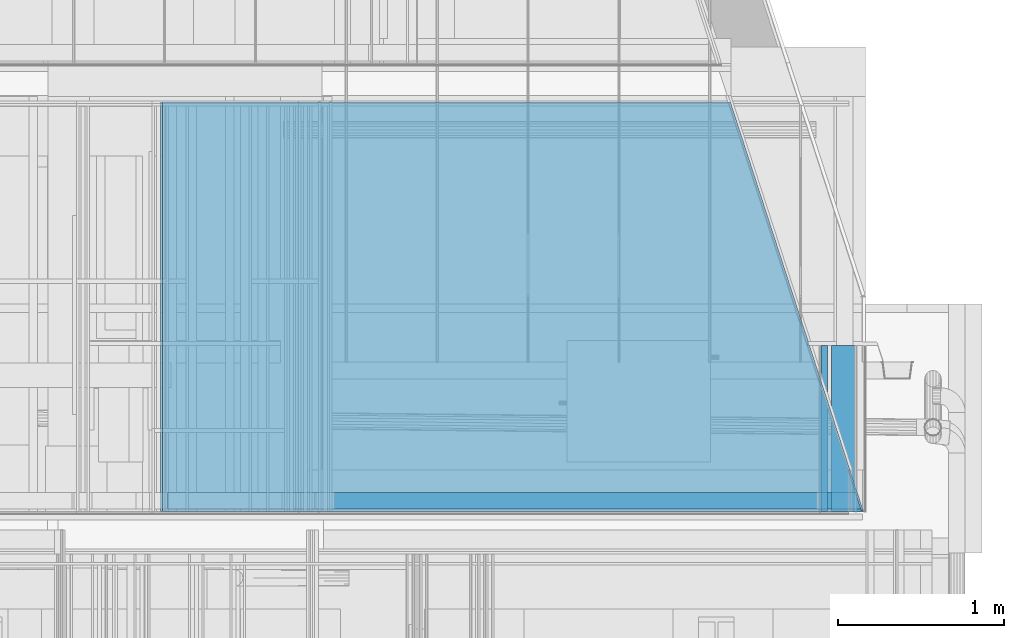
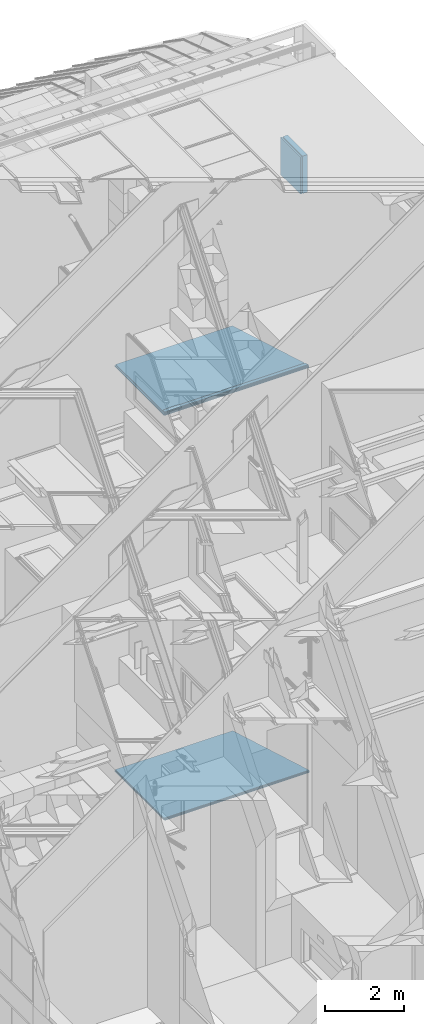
# One storey, part 164 of 583: 10 building element parts, 3 elements without a shape of their own.
"""IFC2X3 building model written with IfcOpenShell, lengths in metres."""

from ifc_helpers import new_model, entity, si_unit, converted_unit, derived_unit, money_unit, direction, frame, frame_2d, origin_with_axes, place, context, subcontext, project, spatial, rectangle, extrude, clip, halfspace, material, type_object, element, aggregate, save


model = new_model("IFC2X3")

# Units and contexts
model_context = context("Model", 3, precision=1e-05, world=origin_with_axes(), true_north=direction((0.0, 1.0)))
body_context = subcontext(model_context, "Body", "Model", "MODEL_VIEW", scale=1.0)
ifc_project = project(units=[si_unit("LENGTHUNIT", "METRE"), si_unit("AREAUNIT", "SQUARE_METRE"), si_unit("VOLUMEUNIT", "CUBIC_METRE"), si_unit("ABSORBEDDOSEUNIT", "GRAY"), si_unit("AMOUNTOFSUBSTANCEUNIT", "MOLE"), si_unit("DOSEEQUIVALENTUNIT", "SIEVERT"), si_unit("ELECTRICCAPACITANCEUNIT", "FARAD"), si_unit("ELECTRICCHARGEUNIT", "COULOMB"), si_unit("ELECTRICCONDUCTANCEUNIT", "SIEMENS"), si_unit("ELECTRICCURRENTUNIT", "AMPERE"), si_unit("ELECTRICRESISTANCEUNIT", "OHM"), si_unit("ELECTRICVOLTAGEUNIT", "VOLT"), si_unit("ENERGYUNIT", "JOULE"), si_unit("FORCEUNIT", "NEWTON"), si_unit("FREQUENCYUNIT", "HERTZ"), si_unit("ILLUMINANCEUNIT", "LUX"), si_unit("INDUCTANCEUNIT", "HENRY"), si_unit("LUMINOUSFLUXUNIT", "LUMEN"), si_unit("LUMINOUSINTENSITYUNIT", "CANDELA"), si_unit("MAGNETICFLUXDENSITYUNIT", "TESLA"), si_unit("MAGNETICFLUXUNIT", "WEBER"), si_unit("MASSUNIT", "GRAM"), converted_unit("PLANEANGLEUNIT", "degree", entity("IfcReal", 0.0174532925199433), si_unit("PLANEANGLEUNIT", "RADIAN"), dimensions=[0, 0, 0, 0, 0, 0, 0]), si_unit("POWERUNIT", "WATT"), si_unit("PRESSUREUNIT", "PASCAL"), si_unit("RADIOACTIVITYUNIT", "BECQUEREL"), si_unit("SOLIDANGLEUNIT", "STERADIAN"), si_unit("THERMODYNAMICTEMPERATUREUNIT", "KELVIN"), si_unit("TIMEUNIT", "SECOND"), derived_unit("ACCELERATIONUNIT", [(si_unit("LENGTHUNIT", "METRE"), 1), (si_unit("TIMEUNIT", "SECOND"), -2)]), derived_unit("ANGULARVELOCITYUNIT", [(converted_unit("PLANEANGLEUNIT", "degree", entity("IfcReal", 0.0174532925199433), si_unit("PLANEANGLEUNIT", "RADIAN"), dimensions=[0, 0, 0, 0, 0, 0, 0]), 1), (si_unit("TIMEUNIT", "SECOND"), -1)]), derived_unit("CURVATUREUNIT", [(converted_unit("PLANEANGLEUNIT", "degree", entity("IfcReal", 0.0174532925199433), si_unit("PLANEANGLEUNIT", "RADIAN"), dimensions=[0, 0, 0, 0, 0, 0, 0]), 1), (si_unit("LENGTHUNIT", "METRE"), -1)]), derived_unit("DYNAMICVISCOSITYUNIT", [(si_unit("PRESSUREUNIT", "PASCAL"), 1), (si_unit("TIMEUNIT", "SECOND"), 1)]), derived_unit("HEATFLUXDENSITYUNIT", [(si_unit("POWERUNIT", "WATT"), 1), (si_unit("LENGTHUNIT", "METRE"), -2)]), derived_unit("HEATINGVALUEUNIT", [(si_unit("ENERGYUNIT", "JOULE"), 1), (si_unit("MASSUNIT", "GRAM"), -1)]), derived_unit("INTEGERCOUNTRATEUNIT", [(si_unit("TIMEUNIT", "SECOND"), -1)]), derived_unit("IONCONCENTRATIONUNIT", [(si_unit("MASSUNIT", "GRAM"), 1), (si_unit("VOLUMEUNIT", "CUBIC_METRE"), -1)]), derived_unit("ISOTHERMALMOISTURECAPACITYUNIT", [(si_unit("VOLUMEUNIT", "CUBIC_METRE"), 1), (si_unit("MASSUNIT", "GRAM"), -1)]), derived_unit("KINEMATICVISCOSITYUNIT", [(si_unit("AREAUNIT", "SQUARE_METRE"), 1), (si_unit("TIMEUNIT", "SECOND"), -1)]), derived_unit("LINEARFORCEUNIT", [(si_unit("FORCEUNIT", "NEWTON"), 1), (si_unit("LENGTHUNIT", "METRE"), -1)]), derived_unit("LINEARMOMENTUNIT", [(si_unit("FORCEUNIT", "NEWTON"), 1), (si_unit("LENGTHUNIT", "METRE"), -1)]), derived_unit("LINEARSTIFFNESSUNIT", [(si_unit("FORCEUNIT", "NEWTON"), 1), (si_unit("LENGTHUNIT", "METRE"), -1)]), derived_unit("LINEARVELOCITYUNIT", [(si_unit("LENGTHUNIT", "METRE"), 1), (si_unit("TIMEUNIT", "SECOND"), -1)]), derived_unit("LUMINOUSINTENSITYDISTRIBUTIONUNIT", [(si_unit("LUMINOUSINTENSITYUNIT", "CANDELA"), 1), (si_unit("LUMINOUSFLUXUNIT", "LUMEN"), -1)]), derived_unit("MASSDENSITYUNIT", [(si_unit("MASSUNIT", "GRAM"), 1), (si_unit("VOLUMEUNIT", "CUBIC_METRE"), -1)]), derived_unit("MASSFLOWRATEUNIT", [(si_unit("MASSUNIT", "GRAM"), 1), (si_unit("TIMEUNIT", "SECOND"), -1)]), derived_unit("MASSPERLENGTHUNIT", [(si_unit("MASSUNIT", "GRAM"), 1), (si_unit("LENGTHUNIT", "METRE"), -1)]), derived_unit("MODULUSOFELASTICITYUNIT", [(si_unit("FORCEUNIT", "NEWTON"), 1), (si_unit("AREAUNIT", "SQUARE_METRE"), -1)]), derived_unit("MODULUSOFLINEARSUBGRADEREACTIONUNIT", [(si_unit("FORCEUNIT", "NEWTON"), 1), (si_unit("LENGTHUNIT", "METRE"), -2)]), derived_unit("MODULUSOFROTATIONALSUBGRADEREACTIONUNIT", [(si_unit("FORCEUNIT", "NEWTON"), 1), (si_unit("LENGTHUNIT", "METRE"), 1)]), derived_unit("MODULUSOFSUBGRADEREACTIONUNIT", [(si_unit("FORCEUNIT", "NEWTON"), 1), (si_unit("VOLUMEUNIT", "CUBIC_METRE"), -1)]), derived_unit("MOISTUREDIFFUSIVITYUNIT", [(si_unit("VOLUMEUNIT", "CUBIC_METRE"), 1), (si_unit("TIMEUNIT", "SECOND"), -1)]), derived_unit("MOLECULARWEIGHTUNIT", [(si_unit("MASSUNIT", "GRAM"), 1), (si_unit("AMOUNTOFSUBSTANCEUNIT", "MOLE"), -1)]), derived_unit("PLANARFORCEUNIT", [(si_unit("FORCEUNIT", "NEWTON"), 1), (si_unit("LENGTHUNIT", "METRE"), -2)]), derived_unit("ROTATIONALFREQUENCYUNIT", [(si_unit("TIMEUNIT", "SECOND"), -1)]), derived_unit("ROTATIONALMASSUNIT", [(si_unit("MASSUNIT", "GRAM"), 1), (si_unit("LENGTHUNIT", "METRE"), 2)]), derived_unit("ROTATIONALSTIFFNESSUNIT", [(si_unit("FORCEUNIT", "NEWTON"), 1), (si_unit("LENGTHUNIT", "METRE"), 1), (converted_unit("PLANEANGLEUNIT", "degree", entity("IfcReal", 0.0174532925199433), si_unit("PLANEANGLEUNIT", "RADIAN"), dimensions=[0, 0, 0, 0, 0, 0, 0]), -1)]), derived_unit("SECTIONAREAINTEGRALUNIT", [(si_unit("LENGTHUNIT", "METRE"), 5)]), derived_unit("SECTIONMODULUSUNIT", [(si_unit("LENGTHUNIT", "METRE"), 3)]), derived_unit("SHEARMODULUSUNIT", [(si_unit("FORCEUNIT", "NEWTON"), 1), (si_unit("AREAUNIT", "SQUARE_METRE"), -1)]), derived_unit("SOUNDPOWERUNIT", [(si_unit("ENERGYUNIT", "JOULE"), 1), (si_unit("TIMEUNIT", "SECOND"), -1)]), derived_unit("SPECIFICHEATCAPACITYUNIT", [(si_unit("FORCEUNIT", "NEWTON"), 1), (si_unit("MASSUNIT", "GRAM"), -1), (si_unit("THERMODYNAMICTEMPERATUREUNIT", "KELVIN"), -1)]), derived_unit("TEMPERATUREGRADIENTUNIT", [(si_unit("THERMODYNAMICTEMPERATUREUNIT", "KELVIN"), 1), (si_unit("LENGTHUNIT", "METRE"), -1)]), derived_unit("THERMALADMITTANCEUNIT", [(si_unit("POWERUNIT", "WATT"), 1), (si_unit("AREAUNIT", "SQUARE_METRE"), -1), (si_unit("THERMODYNAMICTEMPERATUREUNIT", "KELVIN"), -1)]), derived_unit("THERMALCONDUCTANCEUNIT", [(si_unit("POWERUNIT", "WATT"), 1), (si_unit("LENGTHUNIT", "METRE"), -1), (si_unit("THERMODYNAMICTEMPERATUREUNIT", "KELVIN"), -1)]), derived_unit("THERMALEXPANSIONCOEFFICIENTUNIT", [(si_unit("THERMODYNAMICTEMPERATUREUNIT", "KELVIN"), -1)]), derived_unit("THERMALRESISTANCEUNIT", [(si_unit("AREAUNIT", "SQUARE_METRE"), 1), (si_unit("POWERUNIT", "WATT"), -1)]), derived_unit("THERMALTRANSMITTANCEUNIT", [(si_unit("POWERUNIT", "WATT"), 1), (si_unit("AREAUNIT", "SQUARE_METRE"), -1), (si_unit("THERMODYNAMICTEMPERATUREUNIT", "KELVIN"), -1)]), derived_unit("TORQUEUNIT", [(si_unit("FORCEUNIT", "NEWTON"), 1), (si_unit("LENGTHUNIT", "METRE"), 1)]), derived_unit("VAPORPERMEABILITYUNIT", [(si_unit("MASSUNIT", "GRAM"), 1), (si_unit("TIMEUNIT", "SECOND"), -1)]), derived_unit("VOLUMETRICFLOWRATEUNIT", [(si_unit("VOLUMEUNIT", "CUBIC_METRE"), 1), (si_unit("TIMEUNIT", "SECOND"), -1)]), derived_unit("WARPINGCONSTANTUNIT", [(si_unit("LENGTHUNIT", "METRE"), 6)]), derived_unit("WARPINGMOMENTUNIT", [(si_unit("FORCEUNIT", "NEWTON"), 1), (si_unit("LENGTHUNIT", "METRE"), 2)]), money_unit("GBP")], contexts=[model_context])

# Site, building, storey
site_placement = place(None, origin_with_axes())
site = spatial("IfcSite", under=ifc_project, at=site_placement, Name="Site", CompositionType="ELEMENT")
building_placement = place(site_placement, origin_with_axes())
building = spatial("IfcBuilding", under=site, at=building_placement, Name="Building01", CompositionType="ELEMENT")
storey_placement = place(building_placement, frame((0.0, 0.0, 20.78), z_axis=(0.0, 0.0, 1.0), x_axis=(1.0, 0.0, 0.0)))
storey = spatial("IfcBuildingStorey", under=building, at=storey_placement, Name="RL", CompositionType="ELEMENT", Elevation=20.78)

# Wall, building element parts
wall_type_1 = type_object("IfcWallType", Name="SHE_A-Walls_Type05b_Partition_80mm", PredefinedType="NOTDEFINED")
wall_1_placement = place(storey_placement, frame((10.151939, 14.98, -15.826976), z_axis=(0.0, 1.0, 0.0), x_axis=(1.0, 0.0, 0.0)))
wall_1 = element("IfcWall", 1, at=wall_1_placement, inside=storey, type_object=wall_type_1, Name="5B", ObjectType="SHE_A-Walls_Type05b_Partition_80mm")
ifc_material_1 = material(Name="A_BSUK_Insulation")
placement_1 = place(wall_1_placement, origin_with_axes())
building_element_part_1 = element("IfcBuildingElementPart", 2, at=placement_1, material=ifc_material_1, Name="1", context=body_context, shape_type="Clipping", body=[
    clip(extrude(rectangle(XDim=4.234719, YDim=0.025, at=frame_2d((2.117359, 0.0125), x_axis=(-1.0, 0.0))), origin_with_axes(), (0.0, 0.0, 1.0), 2.468), halfspace(frame((3.830339, 0.0, 1.244553), z_axis=(-0.95105652, 0.0, -0.30901699), x_axis=(0.0, -1.0, 0.0)), True)),
])
ifc_material_2 = material(Name="A_BSUK_WallInternal_Finishes_Plasterboard")
building_element_part_2 = element("IfcBuildingElementPart", 3, at=placement_1, material=ifc_material_2, Name="3", context=body_context, shape_type="Clipping", body=[
    clip(extrude(rectangle(XDim=4.206719, YDim=0.015, at=frame_2d((2.131359, 0.0455), x_axis=(-1.0, 0.0))), origin_with_axes(), (0.0, 0.0, 1.0), 2.468), halfspace(frame((3.830339, 0.0, 1.244553), z_axis=(-0.95105652, 0.0, -0.30901699), x_axis=(0.0, -1.0, 0.0)), True)),
])
building_element_part_3 = element("IfcBuildingElementPart", 4, at=placement_1, material=ifc_material_2, Name="4", context=body_context, shape_type="Clipping", body=[
    clip(extrude(rectangle(XDim=4.221719, YDim=0.015, at=frame_2d((2.123859, -0.0195), x_axis=(-1.0, 0.0))), origin_with_axes(), (0.0, 0.0, 1.0), 2.468), halfspace(frame((3.830339, 0.0, 1.244553), z_axis=(-0.95105652, 0.0, -0.30901699), x_axis=(0.0, -1.0, 0.0)), True)),
])
aggregate(wall_1, [building_element_part_1, building_element_part_2, building_element_part_3])

wall_2_placement = place(storey_placement, frame((10.151939, 14.98, -3.367024), z_axis=(0.0, 1.0, 0.0), x_axis=(1.0, 0.0, 0.0)))
wall_2 = element("IfcWall", 5, at=wall_2_placement, inside=storey, type_object=wall_type_1, Name="5B", ObjectType="SHE_A-Walls_Type05b_Partition_80mm")
placement_2 = place(wall_2_placement, origin_with_axes())
building_element_part_4 = element("IfcBuildingElementPart", 6, at=placement_2, material=ifc_material_1, Name="1", context=body_context, shape_type="Clipping", body=[
    clip(extrude(rectangle(XDim=4.224204, YDim=0.025, at=frame_2d((2.112102, 0.0125), x_axis=(-1.0, 0.0))), origin_with_axes(), (0.0, 0.0, 1.0), 2.468), halfspace(frame((3.820828, 0.0, 1.241462), z_axis=(-0.95105652, 0.0, -0.30901699), x_axis=(0.0, -1.0, 0.0)), True)),
])
ifc_material_3 = material(Name="A_BSUK_Walls_Timber")
building_element_part_5 = element("IfcBuildingElementPart", 7, at=placement_2, material=ifc_material_3, Name="2", context=body_context, shape_type="Clipping", body=[
    clip(extrude(rectangle(XDim=4.17633, YDim=0.015, at=frame_2d((2.131165, 0.0605), x_axis=(-1.0, 0.0))), frame((0.0, 0.0, 0.015), z_axis=(0.0, 0.0, 1.0), x_axis=(1.0, 0.0, 0.0)), (0.0, 0.0, 1.0), 0.1), halfspace(frame((3.820828, 0.0, 1.241462), z_axis=(-0.95105652, 0.0, -0.30901699), x_axis=(0.0, -1.0, 0.0)), True)),
])
building_element_part_6 = element("IfcBuildingElementPart", 8, at=placement_2, material=ifc_material_2, Name="3", context=body_context, shape_type="Clipping", body=[
    clip(extrude(rectangle(XDim=4.211204, YDim=0.015, at=frame_2d((2.118602, 0.0455), x_axis=(-1.0, 0.0))), origin_with_axes(), (0.0, 0.0, 1.0), 2.468), halfspace(frame((3.820828, 0.0, 1.241462), z_axis=(-0.95105652, 0.0, -0.30901699), x_axis=(0.0, -1.0, 0.0)), True)),
])
building_element_part_7 = element("IfcBuildingElementPart", 9, at=placement_2, material=ifc_material_2, Name="4", context=body_context, shape_type="Clipping", body=[
    clip(extrude(rectangle(XDim=4.196204, YDim=0.015, at=frame_2d((2.126102, -0.0195), x_axis=(-1.0, 0.0))), origin_with_axes(), (0.0, 0.0, 1.0), 2.468), halfspace(frame((3.820828, 0.0, 1.241462), z_axis=(-0.95105652, 0.0, -0.30901699), x_axis=(0.0, -1.0, 0.0)), True)),
])
building_element_part_8 = element("IfcBuildingElementPart", 10, at=placement_2, material=ifc_material_3, Name="5", context=body_context, shape_type="Clipping", body=[
    clip(extrude(rectangle(XDim=4.17633, YDim=0.015, at=frame_2d((2.131165, -0.0345), x_axis=(-1.0, 0.0))), frame((0.0, 0.0, 0.015), z_axis=(0.0, 0.0, 1.0), x_axis=(1.0, 0.0, 0.0)), (0.0, 0.0, 1.0), 0.1), halfspace(frame((3.820828, 0.0, 1.241462), z_axis=(-0.95105652, 0.0, -0.30901699), x_axis=(0.0, -1.0, 0.0)), True)),
])
aggregate(wall_2, [building_element_part_4, building_element_part_5, building_element_part_6, building_element_part_7, building_element_part_8])

wall_type_2 = type_object("IfcWallType", Name="SHE_A-Walls_Type06e_ExternalWallPenthouse_280mm", PredefinedType="NOTDEFINED")
wall_3_placement = place(storey_placement, frame((14.335061, 14.98, 2.000024), z_axis=(0.0, 1.0, 0.0), x_axis=(0.0, 0.0, 1.0)))
wall_3 = element("IfcWall", 11, at=wall_3_placement, inside=storey, type_object=wall_type_2, Name="6E", ObjectType="SHE_A-Walls_Type06e_ExternalWallPenthouse_280mm")
placement_3 = place(wall_3_placement, origin_with_axes())
building_element_part_9 = element("IfcBuildingElementPart", 12, at=placement_3, material=ifc_material_1, Name="1", context=body_context, shape_type="SweptSolid", body=[
    extrude(rectangle(XDim=1.149951, YDim=0.14, at=frame_2d((0.574976, -0.07), x_axis=(-1.0, 0.0))), origin_with_axes(), (0.0, 0.0, 1.0), 1.0),
])
building_element_part_10 = element("IfcBuildingElementPart", 13, at=placement_3, material=ifc_material_1, Name="2", context=body_context, shape_type="SweptSolid", body=[
    extrude(rectangle(XDim=1.149951, YDim=0.04, at=frame_2d((0.574976, -0.185), x_axis=(-1.0, 0.0))), origin_with_axes(), (0.0, 0.0, 1.0), 1.0),
])
aggregate(wall_3, [building_element_part_9, building_element_part_10])

save(model, "model.ifc")
